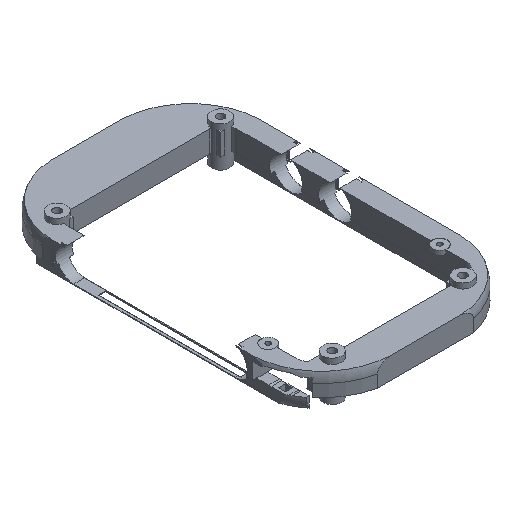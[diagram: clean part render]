
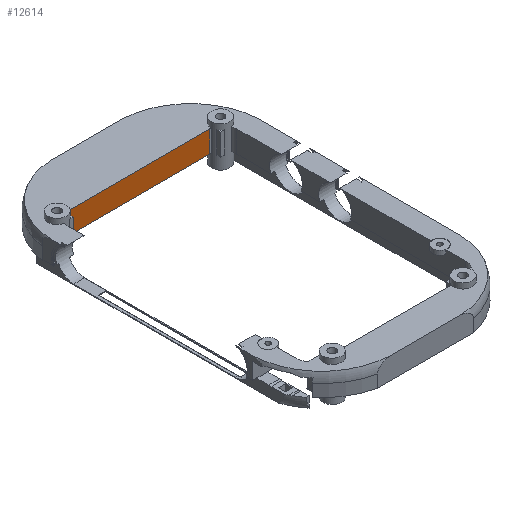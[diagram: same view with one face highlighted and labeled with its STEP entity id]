
A CAD part, isometric view. The second image highlights one B-rep face of the part: STEP entity #12614.
In plain terms, the highlighted planar face has unit normal (0, -1, 0).
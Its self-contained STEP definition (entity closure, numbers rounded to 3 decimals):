
#5736 = PLANE('',#5737);
#5737 = AXIS2_PLACEMENT_3D('',#5738,#5739,#5740);
#5738 = CARTESIAN_POINT('',(-38.2,-62.2,12.));
#5739 = DIRECTION('',(0.,0.,1.));
#5740 = DIRECTION('',(1.,0.,-0.));
#8358 = CYLINDRICAL_SURFACE('',#8359,5.);
#8359 = AXIS2_PLACEMENT_3D('',#8360,#8361,#8362);
#8360 = CARTESIAN_POINT('',(-26.,38.,10.));
#8361 = DIRECTION('',(0.,0.,1.));
#8362 = DIRECTION('',(-1.,-0.,0.));
#8386 = PLANE('',#8387);
#8387 = AXIS2_PLACEMENT_3D('',#8388,#8389,#8390);
#8388 = CARTESIAN_POINT('',(-38.2,-62.2,20.));
#8389 = DIRECTION('',(0.,0.,1.));
#8390 = DIRECTION('',(1.,0.,-0.));
#9701 = VERTEX_POINT('',#9702);
#9702 = CARTESIAN_POINT('',(-26.,43.,12.));
#9724 = EDGE_CURVE('',#9725,#9701,#9727,.T.);
#9725 = VERTEX_POINT('',#9726);
#9726 = CARTESIAN_POINT('',(26.,43.,12.));
#9727 = SURFACE_CURVE('',#9728,(#9732,#9739),.PCURVE_S1.);
#9728 = LINE('',#9729,#9730);
#9729 = CARTESIAN_POINT('',(-34.6,43.,12.));
#9730 = VECTOR('',#9731,1.);
#9731 = DIRECTION('',(-1.,0.,0.));
#9732 = PCURVE('',#5736,#9733);
#9733 = DEFINITIONAL_REPRESENTATION('',(#9734),#9738);
#9734 = LINE('',#9735,#9736);
#9735 = CARTESIAN_POINT('',(3.6,105.2));
#9736 = VECTOR('',#9737,1.);
#9737 = DIRECTION('',(-1.,0.));
#9738 = ( GEOMETRIC_REPRESENTATION_CONTEXT(2) 
PARAMETRIC_REPRESENTATION_CONTEXT() REPRESENTATION_CONTEXT('2D SPACE',''
  ) );
#9739 = PCURVE('',#9740,#9745);
#9740 = PLANE('',#9741);
#9741 = AXIS2_PLACEMENT_3D('',#9742,#9743,#9744);
#9742 = CARTESIAN_POINT('',(-31.,43.,10.));
#9743 = DIRECTION('',(0.,1.,0.));
#9744 = DIRECTION('',(0.,-0.,1.));
#9745 = DEFINITIONAL_REPRESENTATION('',(#9746),#9750);
#9746 = LINE('',#9747,#9748);
#9747 = CARTESIAN_POINT('',(2.,-3.6));
#9748 = VECTOR('',#9749,1.);
#9749 = DIRECTION('',(0.,-1.));
#9750 = ( GEOMETRIC_REPRESENTATION_CONTEXT(2) 
PARAMETRIC_REPRESENTATION_CONTEXT() REPRESENTATION_CONTEXT('2D SPACE',''
  ) );
#9769 = CYLINDRICAL_SURFACE('',#9770,5.);
#9770 = AXIS2_PLACEMENT_3D('',#9771,#9772,#9773);
#9771 = CARTESIAN_POINT('',(26.,38.,10.));
#9772 = DIRECTION('',(0.,0.,1.));
#9773 = DIRECTION('',(1.,0.,-0.));
#10857 = VERTEX_POINT('',#10858);
#10858 = CARTESIAN_POINT('',(-26.,43.,20.));
#10880 = EDGE_CURVE('',#9701,#10857,#10881,.T.);
#10881 = SURFACE_CURVE('',#10882,(#10886,#10893),.PCURVE_S1.);
#10882 = LINE('',#10883,#10884);
#10883 = CARTESIAN_POINT('',(-26.,43.,10.));
#10884 = VECTOR('',#10885,1.);
#10885 = DIRECTION('',(0.,0.,1.));
#10886 = PCURVE('',#8358,#10887);
#10887 = DEFINITIONAL_REPRESENTATION('',(#10888),#10892);
#10888 = LINE('',#10889,#10890);
#10889 = CARTESIAN_POINT('',(4.712,0.));
#10890 = VECTOR('',#10891,1.);
#10891 = DIRECTION('',(-0.,1.));
#10892 = ( GEOMETRIC_REPRESENTATION_CONTEXT(2) 
PARAMETRIC_REPRESENTATION_CONTEXT() REPRESENTATION_CONTEXT('2D SPACE',''
  ) );
#10893 = PCURVE('',#9740,#10894);
#10894 = DEFINITIONAL_REPRESENTATION('',(#10895),#10899);
#10895 = LINE('',#10896,#10897);
#10896 = CARTESIAN_POINT('',(0.,5.));
#10897 = VECTOR('',#10898,1.);
#10898 = DIRECTION('',(1.,0.));
#10899 = ( GEOMETRIC_REPRESENTATION_CONTEXT(2) 
PARAMETRIC_REPRESENTATION_CONTEXT() REPRESENTATION_CONTEXT('2D SPACE',''
  ) );
#11200 = EDGE_CURVE('',#11201,#10857,#11203,.T.);
#11201 = VERTEX_POINT('',#11202);
#11202 = CARTESIAN_POINT('',(26.,43.,20.));
#11203 = SURFACE_CURVE('',#11204,(#11208,#11215),.PCURVE_S1.);
#11204 = LINE('',#11205,#11206);
#11205 = CARTESIAN_POINT('',(-34.6,43.,20.));
#11206 = VECTOR('',#11207,1.);
#11207 = DIRECTION('',(-1.,0.,0.));
#11208 = PCURVE('',#8386,#11209);
#11209 = DEFINITIONAL_REPRESENTATION('',(#11210),#11214);
#11210 = LINE('',#11211,#11212);
#11211 = CARTESIAN_POINT('',(3.6,105.2));
#11212 = VECTOR('',#11213,1.);
#11213 = DIRECTION('',(-1.,0.));
#11214 = ( GEOMETRIC_REPRESENTATION_CONTEXT(2) 
PARAMETRIC_REPRESENTATION_CONTEXT() REPRESENTATION_CONTEXT('2D SPACE',''
  ) );
#11215 = PCURVE('',#9740,#11216);
#11216 = DEFINITIONAL_REPRESENTATION('',(#11217),#11221);
#11217 = LINE('',#11218,#11219);
#11218 = CARTESIAN_POINT('',(10.,-3.6));
#11219 = VECTOR('',#11220,1.);
#11220 = DIRECTION('',(0.,-1.));
#11221 = ( GEOMETRIC_REPRESENTATION_CONTEXT(2) 
PARAMETRIC_REPRESENTATION_CONTEXT() REPRESENTATION_CONTEXT('2D SPACE',''
  ) );
#12614 = ADVANCED_FACE('',(#12615),#9740,.F.);
#12615 = FACE_BOUND('',#12616,.F.);
#12616 = EDGE_LOOP('',(#12617,#12618,#12619,#12620));
#12617 = ORIENTED_EDGE('',*,*,#9724,.T.);
#12618 = ORIENTED_EDGE('',*,*,#10880,.T.);
#12619 = ORIENTED_EDGE('',*,*,#11200,.F.);
#12620 = ORIENTED_EDGE('',*,*,#12621,.F.);
#12621 = EDGE_CURVE('',#9725,#11201,#12622,.T.);
#12622 = SURFACE_CURVE('',#12623,(#12627,#12634),.PCURVE_S1.);
#12623 = LINE('',#12624,#12625);
#12624 = CARTESIAN_POINT('',(26.,43.,10.));
#12625 = VECTOR('',#12626,1.);
#12626 = DIRECTION('',(0.,0.,1.));
#12627 = PCURVE('',#9740,#12628);
#12628 = DEFINITIONAL_REPRESENTATION('',(#12629),#12633);
#12629 = LINE('',#12630,#12631);
#12630 = CARTESIAN_POINT('',(0.,57.));
#12631 = VECTOR('',#12632,1.);
#12632 = DIRECTION('',(1.,0.));
#12633 = ( GEOMETRIC_REPRESENTATION_CONTEXT(2) 
PARAMETRIC_REPRESENTATION_CONTEXT() REPRESENTATION_CONTEXT('2D SPACE',''
  ) );
#12634 = PCURVE('',#9769,#12635);
#12635 = DEFINITIONAL_REPRESENTATION('',(#12636),#12640);
#12636 = LINE('',#12637,#12638);
#12637 = CARTESIAN_POINT('',(1.571,0.));
#12638 = VECTOR('',#12639,1.);
#12639 = DIRECTION('',(0.,1.));
#12640 = ( GEOMETRIC_REPRESENTATION_CONTEXT(2) 
PARAMETRIC_REPRESENTATION_CONTEXT() REPRESENTATION_CONTEXT('2D SPACE',''
  ) );
